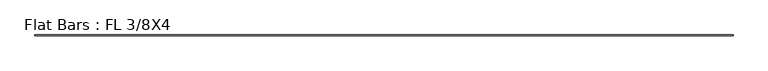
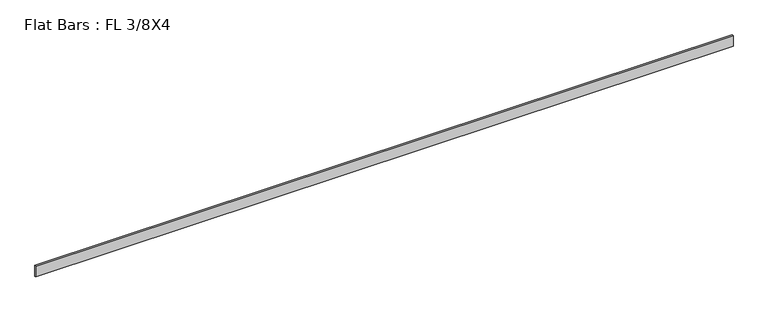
"""IFC4 building model written with IfcOpenShell, lengths in millimetres: member geometry, Flat Bars : FL 3/8X4."""

from ifc_helpers import new_model, si_unit, frame, origin, place, context, project, spatial, polyline, outline, extrude, source, transform, mapped, element, save


def flat_bars_fl_3_8x4_c289e923(model_context):
    return source(origin(), model_context, "Body", "SweptSolid", [
        extrude(outline(polyline([(-3147.7730219, 4.7625), (3179.9857662, 4.7625), (3179.9857662, -4.7625), (-3147.7730219, -4.7625), (-3147.7730219, 4.7625)])), frame((0.0, 0.0, -50.8), z_axis=(0.0, 0.0, 1.0), x_axis=(1.0, 0.0, 0.0)), (0.0, 0.0, 1.0), 101.6),
    ])


if __name__ == "__main__":
    model = new_model("IFC4")
    model_context = context("Model", 3, world=origin())
    ifc_project = project(units=[si_unit("LENGTHUNIT", "METRE", prefix="MILLI")], contexts=[model_context])
    site = spatial("IfcSite", under=ifc_project)
    building = spatial("IfcBuilding", under=site)
    placement = place(None, origin())
    flat_bars_fl_3_8x4_shape = flat_bars_fl_3_8x4_c289e923(model_context)
    element("IfcMember", 1, ObjectType="Flat Bars : FL 3/8X4", at=placement, inside=building, context=model_context, shape_type="MappedRepresentation", body=[
        mapped(flat_bars_fl_3_8x4_shape, transform((0.0, 0.0, 0.0), x_axis=(1.0, 0.0, 0.0), y_axis=(0.0, 1.0, 0.0), z_axis=(0.0, 0.0, 1.0))),
    ])
    save(model, "model.ifc")
